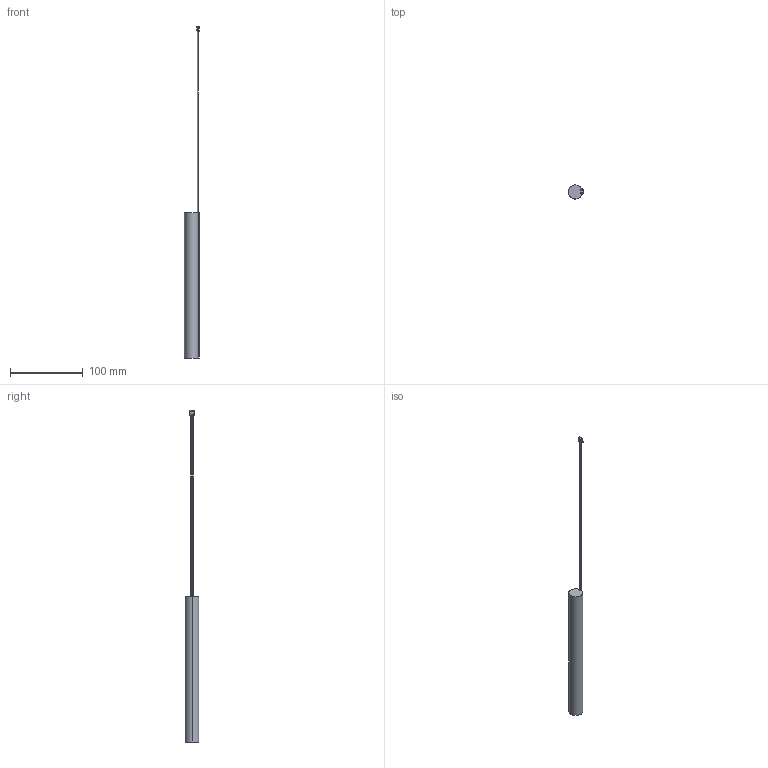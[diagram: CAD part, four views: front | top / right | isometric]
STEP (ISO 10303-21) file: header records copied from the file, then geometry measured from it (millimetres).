
FILE_DESCRIPTION (( 'STEP AP214' ), '1' );
FILE_NAME ('275809 LiFeP04 JST_EH.STEP', '2019-02-20T18:28:07', ( '' ), ( '' ), 'SwSTEP 2.0', 'SolidWorks 2018', '' );
FILE_SCHEMA (( 'AUTOMOTIVE_DESIGN' ));
Length unit declared in the file: millimetre
Products named in the file (3): EHR-2; 275809 LiFeP04 JST_EH; 275809 LiFeP04
Assembly tree (2 placements, depth 2):
  275809 LiFeP04 JST_EH
    275809 LiFeP04
    EHR-2
Bounding box: 20.7 x 18.94 x 456.5 mm (x, y, z)
Volume: 58564.8 mm3; surface area: 15631.7 mm2
Topology: 2 solids, 2 shells, 76 faces, 204 edges, 136 vertices
Faces by surface type: plane 68, cylinder 8
Entity records: 2564 total; most frequent: CARTESIAN_POINT 421, ORIENTED_EDGE 408, DIRECTION 382, EDGE_CURVE 204, LINE 188, VECTOR 188, VERTEX_POINT 136, AXIS2_PLACEMENT_3D 97
